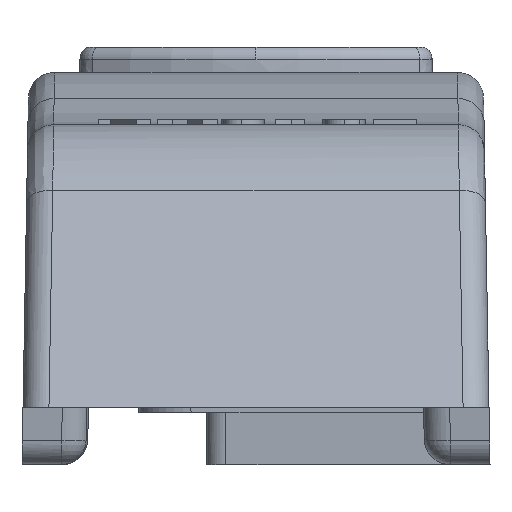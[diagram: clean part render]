
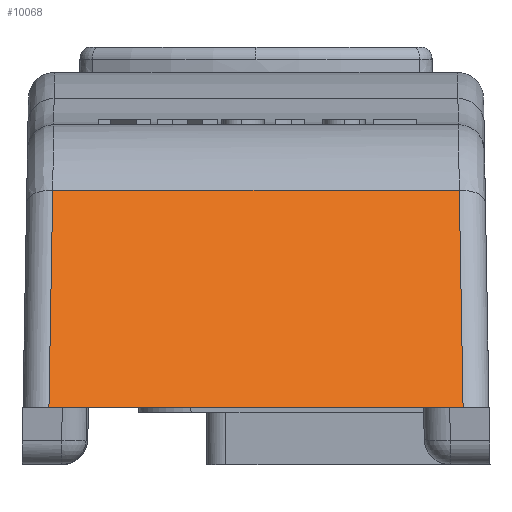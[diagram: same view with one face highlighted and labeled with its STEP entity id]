
A CAD part, left-side view. The second image highlights one B-rep face of the part: STEP entity #10068.
In plain terms, the highlighted planar face has unit normal (-0.866, 0, 0.5).
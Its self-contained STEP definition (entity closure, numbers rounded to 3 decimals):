
#1095 = CARTESIAN_POINT ( 'NONE',  ( -79.246, -22.776, 10.621 ) ) ;
#1433 = CARTESIAN_POINT ( 'NONE',  ( -79.246, -7.225, 10.621 ) ) ;
#1593 = CARTESIAN_POINT ( 'NONE',  ( -84.038, -7.08, 2.321 ) ) ;
#1897 = CARTESIAN_POINT ( 'NONE',  ( -84.038, -22.921, 2.321 ) ) ;
#2102 = EDGE_LOOP ( 'NONE', ( #3528, #3566, #3669, #3664 ) ) ;
#2145 = LINE ( 'NONE', #2148, #4257 ) ;
#2148 = CARTESIAN_POINT ( 'NONE',  ( -79.246, -6.277, 10.621 ) ) ;
#2150 = DIRECTION ( 'NONE',  ( 0., 1., 0. ) ) ;
#2277 = VERTEX_POINT ( 'NONE', #1897 ) ;
#2939 = VERTEX_POINT ( 'NONE', #1593 ) ;
#2957 = VERTEX_POINT ( 'NONE', #1095 ) ;
#3152 = VERTEX_POINT ( 'NONE', #1433 ) ;
#3528 = ORIENTED_EDGE ( 'NONE', *, *, #7961, .F. ) ;
#3566 = ORIENTED_EDGE ( 'NONE', *, *, #10069, .T. ) ;
#3664 = ORIENTED_EDGE ( 'NONE', *, *, #7056, .T. ) ;
#3669 = ORIENTED_EDGE ( 'NONE', *, *, #9919, .T. ) ;
#4066 = VECTOR ( 'NONE', #4802, 1000. ) ;
#4096 = VECTOR ( 'NONE', #6119, 1000. ) ;
#4172 = VECTOR ( 'NONE', #8179, 1000. ) ;
#4192 = AXIS2_PLACEMENT_3D ( 'NONE', #8172, #8173, #8174 ) ;
#4257 = VECTOR ( 'NONE', #2150, 1000. ) ;
#4802 = DIRECTION ( 'NONE',  ( -0.5, 0.015, -0.866 ) ) ;
#4804 = CARTESIAN_POINT ( 'NONE',  ( -89.029, -6.93, -6.323 ) ) ;
#4806 = LINE ( 'NONE', #4804, #4066 ) ;
#6117 = LINE ( 'NONE', #6118, #4096 ) ;
#6118 = CARTESIAN_POINT ( 'NONE',  ( -84.038, 101.484, 2.321 ) ) ;
#6119 = DIRECTION ( 'NONE',  ( 0., 1., 0. ) ) ;
#7056 = EDGE_CURVE ( 'NONE', #3152, #2939, #4806, .T. ) ;
#7961 = EDGE_CURVE ( 'NONE', #2277, #2939, #6117, .T. ) ;
#8144 = FACE_OUTER_BOUND ( 'NONE', #2102, .T. ) ;
#8169 = PLANE ( 'NONE',  #4192 ) ;
#8172 = CARTESIAN_POINT ( 'NONE',  ( -88.21, 101.484, -4.904 ) ) ;
#8173 = DIRECTION ( 'NONE',  ( 0.866, 0., -0.5 ) ) ;
#8174 = DIRECTION ( 'NONE',  ( 0.5, 0., 0.866 ) ) ;
#8177 = LINE ( 'NONE', #8178, #4172 ) ;
#8178 = CARTESIAN_POINT ( 'NONE',  ( -87.269, -23.018, -3.274 ) ) ;
#8179 = DIRECTION ( 'NONE',  ( 0.5, 0.015, 0.866 ) ) ;
#9919 = EDGE_CURVE ( 'NONE', #2957, #3152, #2145, .T. ) ;
#10068 = ADVANCED_FACE ( 'NONE', ( #8144 ), #8169, .F. ) ;
#10069 = EDGE_CURVE ( 'NONE', #2277, #2957, #8177, .T. ) ;
